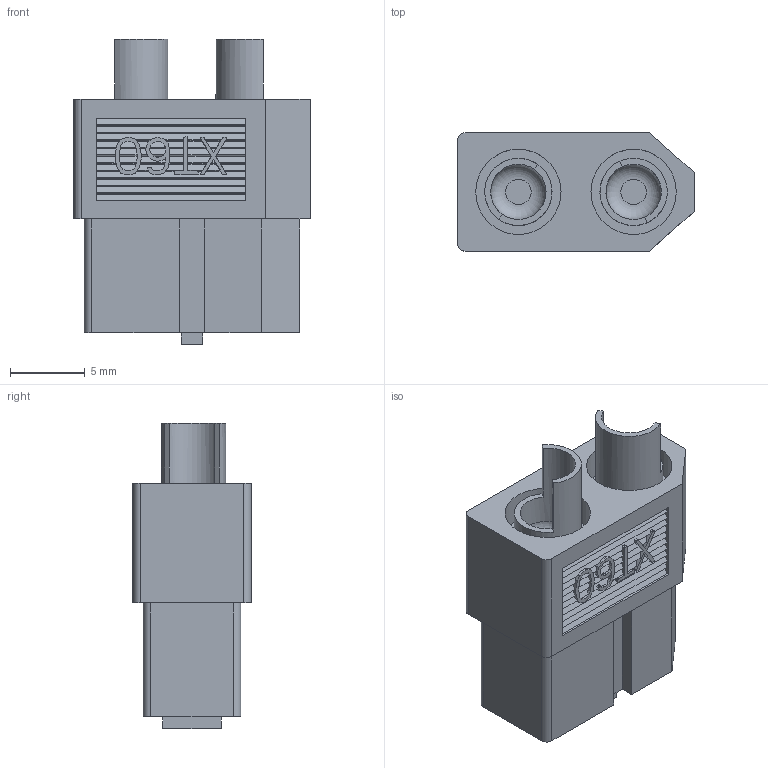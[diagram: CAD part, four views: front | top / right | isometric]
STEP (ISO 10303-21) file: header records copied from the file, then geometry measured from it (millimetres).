
FILE_DESCRIPTION(('FreeCAD Model'),'2;1');
FILE_NAME('Open CASCADE Shape Model','2023-05-06T18:44:57',('Author'),( ''),'Open CASCADE STEP processor 7.5','FreeCAD','Unknown');
FILE_SCHEMA(('AUTOMOTIVE_DESIGN { 1 0 10303 214 1 1 1 1 }'));
Length unit declared in the file: millimetre
Products named in the file (1): XT60 dad
Bounding box: 15.8 x 7.9 x 20.4 mm (x, y, z)
Volume: 1301.1 mm3; surface area: 2218.5 mm2
Topology: 3 solids, 3 shells, 607 faces, 1751 edges, 1168 vertices
Faces by surface type: plane 499, bspline 86, cylinder 20, torus 2
Full cylindrical faces by diameter (mm): 3.5 x2, 3.7 x2, 4.1 x2, 4.4 x2, 4.5 x4, 5.7 x4
Entity records: 27670 total; most frequent: CARTESIAN_POINT 5937, ORIENTED_EDGE 3450, DIRECTION 2606, EDGE_CURVE 1725, VECTOR 1470, LINE 1470, VERTEX_POINT 1160, EDGE_LOOP 647
